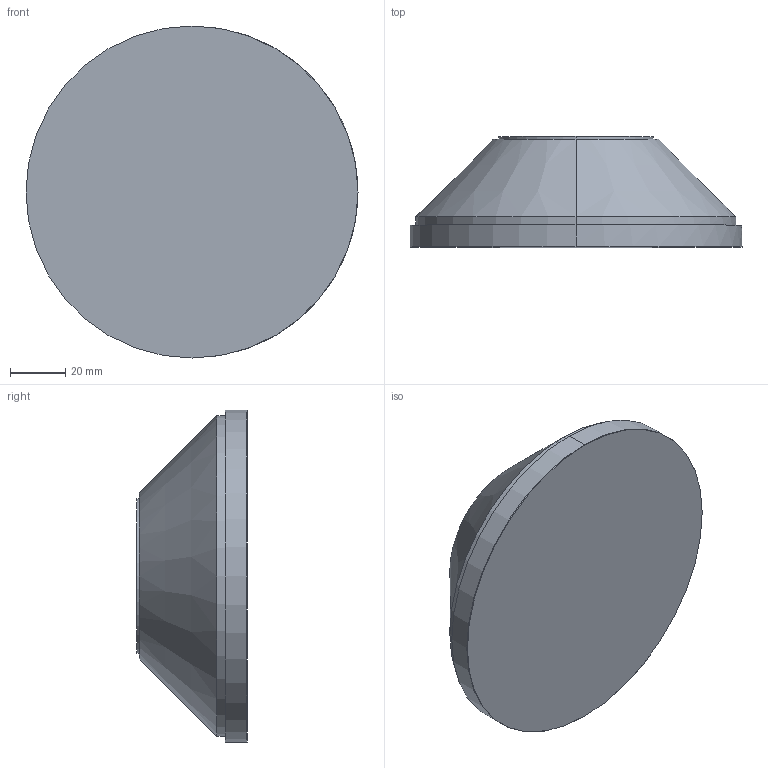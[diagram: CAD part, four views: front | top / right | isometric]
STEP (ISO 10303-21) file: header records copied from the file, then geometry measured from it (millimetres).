
FILE_DESCRIPTION (( 'STEP AP203' ), '1' );
FILE_NAME ('EZ-0053-120 Standardlager Bestell-Nr. 0004744.STEP', '2021-09-16T15:18:16', ( '' ), ( '' ), 'SwSTEP 2.0', 'SolidWorks 2021', '' );
FILE_SCHEMA (( 'CONFIG_CONTROL_DESIGN' ));
Length unit declared in the file: millimetre
Products named in the file (1): EZ-0053-120 Standardlager  Bestell-Nr. 0004744
Bounding box: 120 x 40 x 120 mm (x, y, z)
Volume: 297609.4 mm3; surface area: 54477.5 mm2
Topology: 4 solids, 4 shells, 79 faces, 172 edges, 106 vertices
Faces by surface type: cylinder 34, plane 23, cone 12, torus 8, sphere 2
Entity records: 2279 total; most frequent: DIRECTION 420, CARTESIAN_POINT 414, ORIENTED_EDGE 336, AXIS2_PLACEMENT_3D 178, EDGE_CURVE 168, VERTEX_POINT 106, CIRCLE 98, EDGE_LOOP 90
